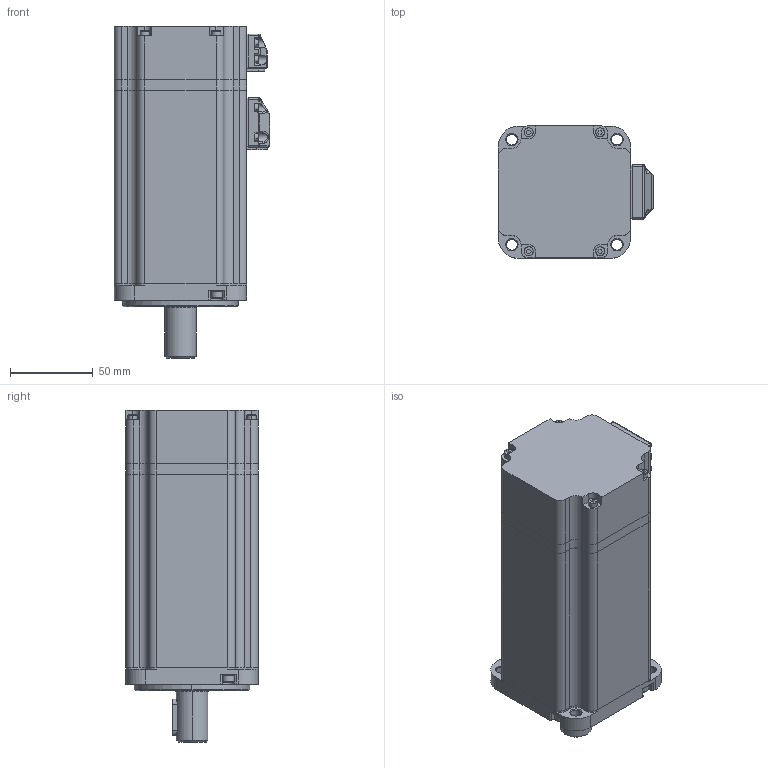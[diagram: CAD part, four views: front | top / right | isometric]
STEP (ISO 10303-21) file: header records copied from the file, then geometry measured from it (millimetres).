
FILE_DESCRIPTION (( 'STEP AP203' ), '1' );
FILE_NAME ('SMH80-10030D10EBL-8.STEP', '2020-04-01T06:42:20', ( 'K' ), ( 'K' ), 'SwSTEP 2.0', 'SolidWorks 2018', '' );
FILE_SCHEMA (( 'CONFIG_CONTROL_DESIGN' ));
Length unit declared in the file: millimetre
Products named in the file (1): SMH80-10030D10EBL-8
Bounding box: 94 x 80 x 201 mm (x, y, z)
Volume: 335125.7 mm3; surface area: 168686.5 mm2
Topology: 31 solids, 31 shells, 1388 faces, 3454 edges, 2185 vertices
Faces by surface type: cylinder 618, plane 556, cone 110, torus 74, sphere 22, bspline 8
Entity records: 42151 total; most frequent: CARTESIAN_POINT 8083, DIRECTION 7530, ORIENTED_EDGE 6820, EDGE_CURVE 3410, AXIS2_PLACEMENT_3D 2852, VERTEX_POINT 2185, LINE 1826, VECTOR 1826
